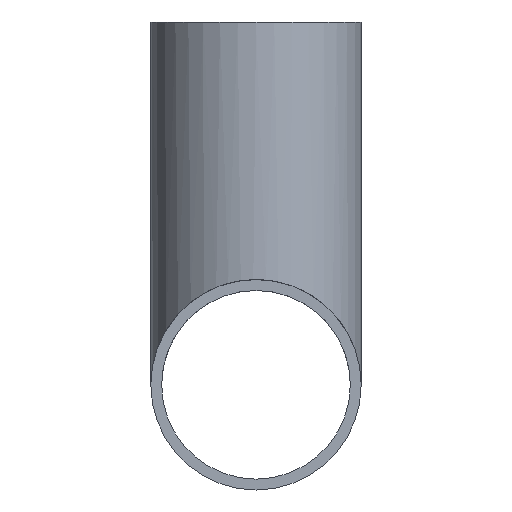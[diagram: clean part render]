
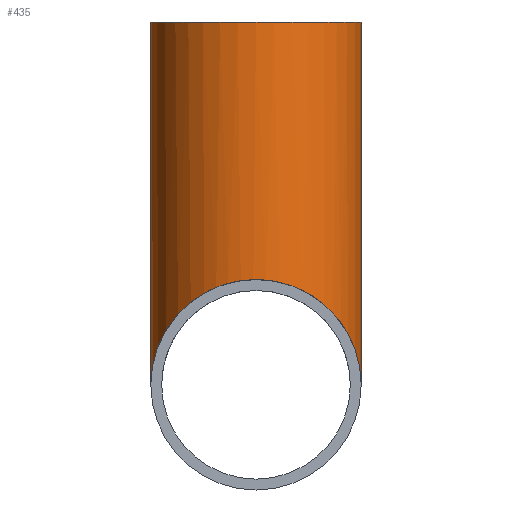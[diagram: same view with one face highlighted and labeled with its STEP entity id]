
A CAD part, left-side view. The second image highlights one B-rep face of the part: STEP entity #435.
In plain terms, the highlighted cylindrical face has radius 14.5 mm (diameter 29 mm), a full revolution.
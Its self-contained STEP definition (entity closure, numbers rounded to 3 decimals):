
#43 = CYLINDRICAL_SURFACE('',#44,14.5);
#44 = AXIS2_PLACEMENT_3D('',#45,#46,#47);
#45 = CARTESIAN_POINT('',(-50.,0.,0.));
#46 = DIRECTION('',(1.,0.,0.));
#47 = DIRECTION('',(0.,0.,-1.));
#143 = EDGE_CURVE('',#144,#146,#148,.T.);
#144 = VERTEX_POINT('',#145);
#145 = CARTESIAN_POINT('',(0.,14.5,0.));
#146 = VERTEX_POINT('',#147);
#147 = CARTESIAN_POINT('',(0.,-14.5,0.));
#148 = SURFACE_CURVE('',#149,(#154,#169),.PCURVE_S1.);
#149 = ELLIPSE('',#150,20.506,14.5);
#150 = AXIS2_PLACEMENT_3D('',#151,#152,#153);
#151 = CARTESIAN_POINT('',(0.,0.,0.));
#152 = DIRECTION('',(0.707,-0.,0.707));
#153 = DIRECTION('',(0.707,0.,-0.707));
#154 = PCURVE('',#43,#155);
#155 = DEFINITIONAL_REPRESENTATION('',(#156),#168);
#156 = B_SPLINE_CURVE_WITH_KNOTS('',10,(#157,#158,#159,#160,#161,#162,
    #163,#164,#165,#166,#167),.UNSPECIFIED.,.F.,.F.,(11,11),(
    1.571,4.712),.PIECEWISE_BEZIER_KNOTS.);
#157 = CARTESIAN_POINT('',(1.571,50.));
#158 = CARTESIAN_POINT('',(1.885,45.445));
#159 = CARTESIAN_POINT('',(2.199,40.889));
#160 = CARTESIAN_POINT('',(2.513,36.959));
#161 = CARTESIAN_POINT('',(2.827,34.277));
#162 = CARTESIAN_POINT('',(3.142,33.321));
#163 = CARTESIAN_POINT('',(3.456,34.277));
#164 = CARTESIAN_POINT('',(3.77,36.959));
#165 = CARTESIAN_POINT('',(4.084,40.889));
#166 = CARTESIAN_POINT('',(4.398,45.445));
#167 = CARTESIAN_POINT('',(4.712,50.));
#168 = ( GEOMETRIC_REPRESENTATION_CONTEXT(2) 
PARAMETRIC_REPRESENTATION_CONTEXT() REPRESENTATION_CONTEXT('2D SPACE',''
  ) );
#169 = PCURVE('',#170,#175);
#170 = CYLINDRICAL_SURFACE('',#171,14.5);
#171 = AXIS2_PLACEMENT_3D('',#172,#173,#174);
#172 = CARTESIAN_POINT('',(0.,0.,0.));
#173 = DIRECTION('',(0.,0.,1.));
#174 = DIRECTION('',(1.,0.,0.));
#175 = DEFINITIONAL_REPRESENTATION('',(#176),#188);
#176 = B_SPLINE_CURVE_WITH_KNOTS('',10,(#177,#178,#179,#180,#181,#182,
    #183,#184,#185,#186,#187),.UNSPECIFIED.,.F.,.F.,(11,11),(
    1.571,4.712),.PIECEWISE_BEZIER_KNOTS.);
#177 = CARTESIAN_POINT('',(1.571,0.));
#178 = CARTESIAN_POINT('',(1.885,4.555));
#179 = CARTESIAN_POINT('',(2.199,9.111));
#180 = CARTESIAN_POINT('',(2.513,13.041));
#181 = CARTESIAN_POINT('',(2.827,15.723));
#182 = CARTESIAN_POINT('',(3.142,16.679));
#183 = CARTESIAN_POINT('',(3.456,15.723));
#184 = CARTESIAN_POINT('',(3.77,13.041));
#185 = CARTESIAN_POINT('',(4.084,9.111));
#186 = CARTESIAN_POINT('',(4.398,4.555));
#187 = CARTESIAN_POINT('',(4.712,0.));
#188 = ( GEOMETRIC_REPRESENTATION_CONTEXT(2) 
PARAMETRIC_REPRESENTATION_CONTEXT() REPRESENTATION_CONTEXT('2D SPACE',''
  ) );
#190 = EDGE_CURVE('',#144,#191,#193,.T.);
#191 = VERTEX_POINT('',#192);
#192 = CARTESIAN_POINT('',(14.5,0.,14.5));
#193 = SURFACE_CURVE('',#194,(#199,#212),.PCURVE_S1.);
#194 = ELLIPSE('',#195,20.506,14.5);
#195 = AXIS2_PLACEMENT_3D('',#196,#197,#198);
#196 = CARTESIAN_POINT('',(0.,0.,0.));
#197 = DIRECTION('',(0.707,0.,-0.707));
#198 = DIRECTION('',(0.707,0.,0.707));
#199 = PCURVE('',#43,#200);
#200 = DEFINITIONAL_REPRESENTATION('',(#201),#211);
#201 = B_SPLINE_CURVE_WITH_KNOTS('',8,(#202,#203,#204,#205,#206,#207,
    #208,#209,#210),.UNSPECIFIED.,.F.,.F.,(9,9),(4.712,
    6.283),.PIECEWISE_BEZIER_KNOTS.);
#202 = CARTESIAN_POINT('',(1.571,50.));
#203 = CARTESIAN_POINT('',(1.767,52.847));
#204 = CARTESIAN_POINT('',(1.963,55.694));
#205 = CARTESIAN_POINT('',(2.16,58.374));
#206 = CARTESIAN_POINT('',(2.356,60.719));
#207 = CARTESIAN_POINT('',(2.553,62.583));
#208 = CARTESIAN_POINT('',(2.749,63.861));
#209 = CARTESIAN_POINT('',(2.945,64.5));
#210 = CARTESIAN_POINT('',(3.142,64.5));
#211 = ( GEOMETRIC_REPRESENTATION_CONTEXT(2) 
PARAMETRIC_REPRESENTATION_CONTEXT() REPRESENTATION_CONTEXT('2D SPACE',''
  ) );
#212 = PCURVE('',#170,#213);
#213 = DEFINITIONAL_REPRESENTATION('',(#214),#224);
#214 = B_SPLINE_CURVE_WITH_KNOTS('',8,(#215,#216,#217,#218,#219,#220,
    #221,#222,#223),.UNSPECIFIED.,.F.,.F.,(9,9),(4.712,
    6.283),.PIECEWISE_BEZIER_KNOTS.);
#215 = CARTESIAN_POINT('',(1.571,0.));
#216 = CARTESIAN_POINT('',(1.374,2.847));
#217 = CARTESIAN_POINT('',(1.178,5.694));
#218 = CARTESIAN_POINT('',(0.982,8.374));
#219 = CARTESIAN_POINT('',(0.785,10.719));
#220 = CARTESIAN_POINT('',(0.589,12.583));
#221 = CARTESIAN_POINT('',(0.393,13.861));
#222 = CARTESIAN_POINT('',(0.196,14.5));
#223 = CARTESIAN_POINT('',(0.,14.5));
#224 = ( GEOMETRIC_REPRESENTATION_CONTEXT(2) 
PARAMETRIC_REPRESENTATION_CONTEXT() REPRESENTATION_CONTEXT('2D SPACE',''
  ) );
#226 = EDGE_CURVE('',#191,#146,#227,.T.);
#227 = SURFACE_CURVE('',#228,(#233,#246),.PCURVE_S1.);
#228 = ELLIPSE('',#229,20.506,14.5);
#229 = AXIS2_PLACEMENT_3D('',#230,#231,#232);
#230 = CARTESIAN_POINT('',(0.,0.,0.));
#231 = DIRECTION('',(0.707,0.,-0.707));
#232 = DIRECTION('',(0.707,0.,0.707));
#233 = PCURVE('',#43,#234);
#234 = DEFINITIONAL_REPRESENTATION('',(#235),#245);
#235 = B_SPLINE_CURVE_WITH_KNOTS('',8,(#236,#237,#238,#239,#240,#241,
    #242,#243,#244),.UNSPECIFIED.,.F.,.F.,(9,9),(0.,1.571),
  .PIECEWISE_BEZIER_KNOTS.);
#236 = CARTESIAN_POINT('',(3.142,64.5));
#237 = CARTESIAN_POINT('',(3.338,64.5));
#238 = CARTESIAN_POINT('',(3.534,63.861));
#239 = CARTESIAN_POINT('',(3.731,62.583));
#240 = CARTESIAN_POINT('',(3.927,60.719));
#241 = CARTESIAN_POINT('',(4.123,58.374));
#242 = CARTESIAN_POINT('',(4.32,55.694));
#243 = CARTESIAN_POINT('',(4.516,52.847));
#244 = CARTESIAN_POINT('',(4.712,50.));
#245 = ( GEOMETRIC_REPRESENTATION_CONTEXT(2) 
PARAMETRIC_REPRESENTATION_CONTEXT() REPRESENTATION_CONTEXT('2D SPACE',''
  ) );
#246 = PCURVE('',#170,#247);
#247 = DEFINITIONAL_REPRESENTATION('',(#248),#258);
#248 = B_SPLINE_CURVE_WITH_KNOTS('',8,(#249,#250,#251,#252,#253,#254,
    #255,#256,#257),.UNSPECIFIED.,.F.,.F.,(9,9),(0.,1.571),
  .PIECEWISE_BEZIER_KNOTS.);
#249 = CARTESIAN_POINT('',(6.283,14.5));
#250 = CARTESIAN_POINT('',(6.087,14.5));
#251 = CARTESIAN_POINT('',(5.89,13.861));
#252 = CARTESIAN_POINT('',(5.694,12.583));
#253 = CARTESIAN_POINT('',(5.498,10.719));
#254 = CARTESIAN_POINT('',(5.301,8.374));
#255 = CARTESIAN_POINT('',(5.105,5.694));
#256 = CARTESIAN_POINT('',(4.909,2.847));
#257 = CARTESIAN_POINT('',(4.712,0.));
#258 = ( GEOMETRIC_REPRESENTATION_CONTEXT(2) 
PARAMETRIC_REPRESENTATION_CONTEXT() REPRESENTATION_CONTEXT('2D SPACE',''
  ) );
#435 = ADVANCED_FACE('',(#436),#170,.T.);
#436 = FACE_BOUND('',#437,.T.);
#437 = EDGE_LOOP('',(#438,#461,#488,#489,#490,#491));
#438 = ORIENTED_EDGE('',*,*,#439,.T.);
#439 = EDGE_CURVE('',#191,#440,#442,.T.);
#440 = VERTEX_POINT('',#441);
#441 = CARTESIAN_POINT('',(14.5,0.,50.));
#442 = SEAM_CURVE('',#443,(#447,#454),.PCURVE_S1.);
#443 = LINE('',#444,#445);
#444 = CARTESIAN_POINT('',(14.5,0.,0.));
#445 = VECTOR('',#446,1.);
#446 = DIRECTION('',(0.,0.,1.));
#447 = PCURVE('',#170,#448);
#448 = DEFINITIONAL_REPRESENTATION('',(#449),#453);
#449 = LINE('',#450,#451);
#450 = CARTESIAN_POINT('',(6.283,-0.));
#451 = VECTOR('',#452,1.);
#452 = DIRECTION('',(0.,1.));
#453 = ( GEOMETRIC_REPRESENTATION_CONTEXT(2) 
PARAMETRIC_REPRESENTATION_CONTEXT() REPRESENTATION_CONTEXT('2D SPACE',''
  ) );
#454 = PCURVE('',#170,#455);
#455 = DEFINITIONAL_REPRESENTATION('',(#456),#460);
#456 = LINE('',#457,#458);
#457 = CARTESIAN_POINT('',(0.,-0.));
#458 = VECTOR('',#459,1.);
#459 = DIRECTION('',(0.,1.));
#460 = ( GEOMETRIC_REPRESENTATION_CONTEXT(2) 
PARAMETRIC_REPRESENTATION_CONTEXT() REPRESENTATION_CONTEXT('2D SPACE',''
  ) );
#461 = ORIENTED_EDGE('',*,*,#462,.F.);
#462 = EDGE_CURVE('',#440,#440,#463,.T.);
#463 = SURFACE_CURVE('',#464,(#469,#476),.PCURVE_S1.);
#464 = CIRCLE('',#465,14.5);
#465 = AXIS2_PLACEMENT_3D('',#466,#467,#468);
#466 = CARTESIAN_POINT('',(0.,0.,50.));
#467 = DIRECTION('',(0.,0.,1.));
#468 = DIRECTION('',(1.,0.,0.));
#469 = PCURVE('',#170,#470);
#470 = DEFINITIONAL_REPRESENTATION('',(#471),#475);
#471 = LINE('',#472,#473);
#472 = CARTESIAN_POINT('',(0.,50.));
#473 = VECTOR('',#474,1.);
#474 = DIRECTION('',(1.,0.));
#475 = ( GEOMETRIC_REPRESENTATION_CONTEXT(2) 
PARAMETRIC_REPRESENTATION_CONTEXT() REPRESENTATION_CONTEXT('2D SPACE',''
  ) );
#476 = PCURVE('',#477,#482);
#477 = PLANE('',#478);
#478 = AXIS2_PLACEMENT_3D('',#479,#480,#481);
#479 = CARTESIAN_POINT('',(0.,0.,50.));
#480 = DIRECTION('',(0.,0.,1.));
#481 = DIRECTION('',(1.,0.,0.));
#482 = DEFINITIONAL_REPRESENTATION('',(#483),#487);
#483 = CIRCLE('',#484,14.5);
#484 = AXIS2_PLACEMENT_2D('',#485,#486);
#485 = CARTESIAN_POINT('',(0.,0.));
#486 = DIRECTION('',(1.,0.));
#487 = ( GEOMETRIC_REPRESENTATION_CONTEXT(2) 
PARAMETRIC_REPRESENTATION_CONTEXT() REPRESENTATION_CONTEXT('2D SPACE',''
  ) );
#488 = ORIENTED_EDGE('',*,*,#439,.F.);
#489 = ORIENTED_EDGE('',*,*,#190,.F.);
#490 = ORIENTED_EDGE('',*,*,#143,.T.);
#491 = ORIENTED_EDGE('',*,*,#226,.F.);
